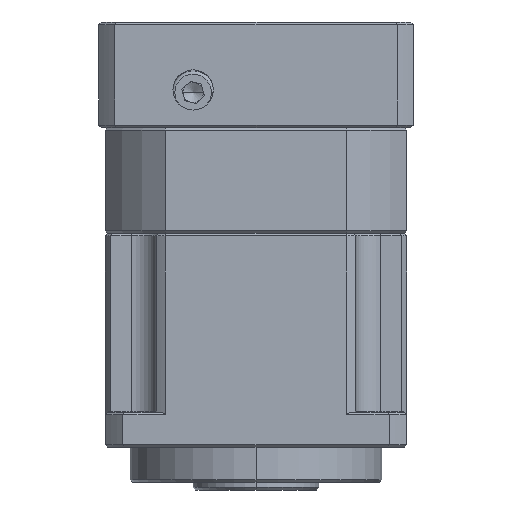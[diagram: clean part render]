
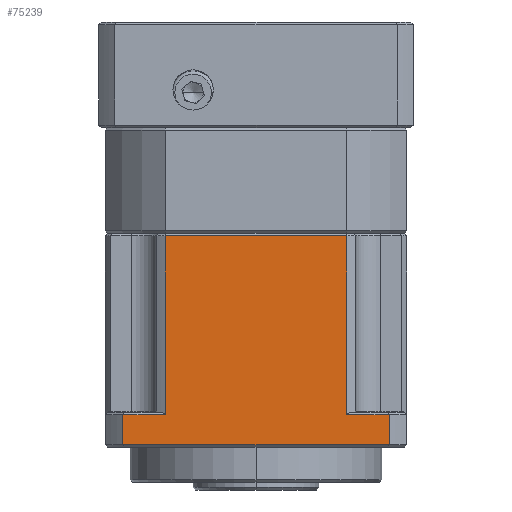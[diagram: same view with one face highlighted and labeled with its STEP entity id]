
A CAD part, left-side view. The second image highlights one B-rep face of the part: STEP entity #75239.
In plain terms, the highlighted planar face has unit normal (-1, 0, 0).
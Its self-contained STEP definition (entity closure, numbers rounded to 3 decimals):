
#22 = VECTOR ( 'NONE', #52308, 1000. ) ;
#1965 = VECTOR ( 'NONE', #9526, 1000. ) ;
#2315 = PLANE ( 'NONE',  #86730 ) ;
#3782 = CARTESIAN_POINT ( 'NONE',  ( -56.727, -3.32, 85. ) ) ;
#3783 = CARTESIAN_POINT ( 'NONE',  ( -56.727, 14.708, 49.5 ) ) ;
#5320 = LINE ( 'NONE', #84345, #9550 ) ;
#7812 = VERTEX_POINT ( 'NONE', #16883 ) ;
#9526 = DIRECTION ( 'NONE',  ( 0., 0., -1. ) ) ;
#9550 = VECTOR ( 'NONE', #37853, 1000. ) ;
#12956 = CARTESIAN_POINT ( 'NONE',  ( -56.727, -29.777, 49.5 ) ) ;
#13305 = CARTESIAN_POINT ( 'NONE',  ( -56.727, -29.777, 43.5 ) ) ;
#14708 = DIRECTION ( 'NONE',  ( 0., 0., -1. ) ) ;
#15468 = EDGE_CURVE ( 'NONE', #18061, #69132, #77996, .T. ) ;
#16883 = CARTESIAN_POINT ( 'NONE',  ( -56.727, -21.348, 85. ) ) ;
#18061 = VERTEX_POINT ( 'NONE', #3783 ) ;
#20998 = LINE ( 'NONE', #64888, #1965 ) ;
#23600 = CARTESIAN_POINT ( 'NONE',  ( -56.727, -33.32, 49.5 ) ) ;
#25735 = ORIENTED_EDGE ( 'NONE', *, *, #77799, .F. ) ;
#26024 = VERTEX_POINT ( 'NONE', #45174 ) ;
#26263 = VECTOR ( 'NONE', #49050, 1000. ) ;
#26396 = VERTEX_POINT ( 'NONE', #29130 ) ;
#28287 = EDGE_CURVE ( 'NONE', #69132, #7812, #36958, .T. ) ;
#29130 = CARTESIAN_POINT ( 'NONE',  ( -56.727, -21.348, 49.5 ) ) ;
#30791 = CARTESIAN_POINT ( 'NONE',  ( -56.727, 14.708, 80. ) ) ;
#31145 = VERTEX_POINT ( 'NONE', #13305 ) ;
#36149 = VERTEX_POINT ( 'NONE', #12956 ) ;
#36958 = LINE ( 'NONE', #3782, #86746 ) ;
#37853 = DIRECTION ( 'NONE',  ( 0., 0., 1. ) ) ;
#39665 = LINE ( 'NONE', #23600, #68383 ) ;
#40482 = DIRECTION ( 'NONE',  ( 0., -1., 0. ) ) ;
#42874 = DIRECTION ( 'NONE',  ( 0., 0., -1. ) ) ;
#42930 = LINE ( 'NONE', #48460, #61961 ) ;
#45143 = CARTESIAN_POINT ( 'NONE',  ( -56.727, 14.708, 85. ) ) ;
#45174 = CARTESIAN_POINT ( 'NONE',  ( -56.727, 23.138, 49.5 ) ) ;
#46234 = VECTOR ( 'NONE', #65463, 1000. ) ;
#48460 = CARTESIAN_POINT ( 'NONE',  ( -56.727, -29.777, 80. ) ) ;
#49050 = DIRECTION ( 'NONE',  ( 0., 1., 0. ) ) ;
#49078 = DIRECTION ( 'NONE',  ( 1., 0., 0. ) ) ;
#49297 = EDGE_CURVE ( 'NONE', #26396, #36149, #39665, .T. ) ;
#51188 = EDGE_CURVE ( 'NONE', #7812, #26396, #20998, .T. ) ;
#51661 = LINE ( 'NONE', #63557, #26263 ) ;
#52308 = DIRECTION ( 'NONE',  ( 0., -1., 0. ) ) ;
#55917 = EDGE_CURVE ( 'NONE', #31145, #77644, #51661, .T. ) ;
#56521 = ORIENTED_EDGE ( 'NONE', *, *, #28287, .F. ) ;
#57467 = ORIENTED_EDGE ( 'NONE', *, *, #55917, .F. ) ;
#58958 = ORIENTED_EDGE ( 'NONE', *, *, #60575, .F. ) ;
#60575 = EDGE_CURVE ( 'NONE', #36149, #31145, #42930, .T. ) ;
#61961 = VECTOR ( 'NONE', #14708, 1000. ) ;
#63082 = ORIENTED_EDGE ( 'NONE', *, *, #72603, .F. ) ;
#63557 = CARTESIAN_POINT ( 'NONE',  ( -56.727, -33.32, 43.5 ) ) ;
#63594 = ORIENTED_EDGE ( 'NONE', *, *, #49297, .F. ) ;
#64888 = CARTESIAN_POINT ( 'NONE',  ( -56.727, -21.348, 80. ) ) ;
#65463 = DIRECTION ( 'NONE',  ( 0., 0., 1. ) ) ;
#66852 = FACE_OUTER_BOUND ( 'NONE', #79924, .T. ) ;
#68383 = VECTOR ( 'NONE', #84882, 1000. ) ;
#69132 = VERTEX_POINT ( 'NONE', #45143 ) ;
#71279 = CARTESIAN_POINT ( 'NONE',  ( -56.727, -33.32, 49.5 ) ) ;
#72603 = EDGE_CURVE ( 'NONE', #77644, #26024, #5320, .T. ) ;
#75239 = ADVANCED_FACE ( 'NONE', ( #66852 ), #2315, .F. ) ;
#77644 = VERTEX_POINT ( 'NONE', #78340 ) ;
#77799 = EDGE_CURVE ( 'NONE', #26024, #18061, #79364, .T. ) ;
#77996 = LINE ( 'NONE', #30791, #46234 ) ;
#78060 = ORIENTED_EDGE ( 'NONE', *, *, #15468, .F. ) ;
#78340 = CARTESIAN_POINT ( 'NONE',  ( -56.727, 23.138, 43.5 ) ) ;
#79364 = LINE ( 'NONE', #71279, #22 ) ;
#79924 = EDGE_LOOP ( 'NONE', ( #56521, #78060, #25735, #63082, #57467, #58958, #63594, #82770 ) ) ;
#82770 = ORIENTED_EDGE ( 'NONE', *, *, #51188, .F. ) ;
#83447 = CARTESIAN_POINT ( 'NONE',  ( -56.727, -33.32, 80. ) ) ;
#84345 = CARTESIAN_POINT ( 'NONE',  ( -56.727, 23.138, 80. ) ) ;
#84882 = DIRECTION ( 'NONE',  ( 0., -1., 0. ) ) ;
#86730 = AXIS2_PLACEMENT_3D ( 'NONE', #83447, #49078, #42874 ) ;
#86746 = VECTOR ( 'NONE', #40482, 1000. ) ;
